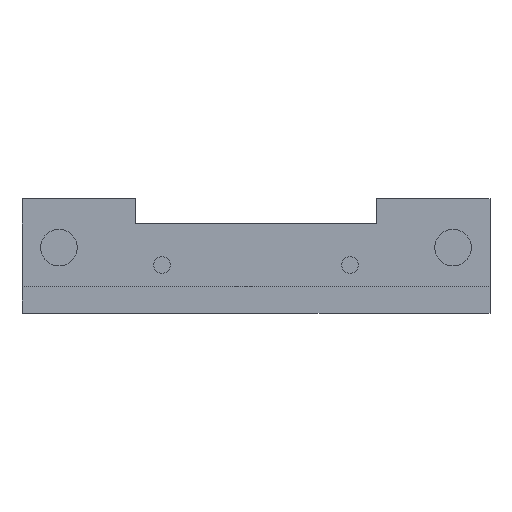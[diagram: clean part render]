
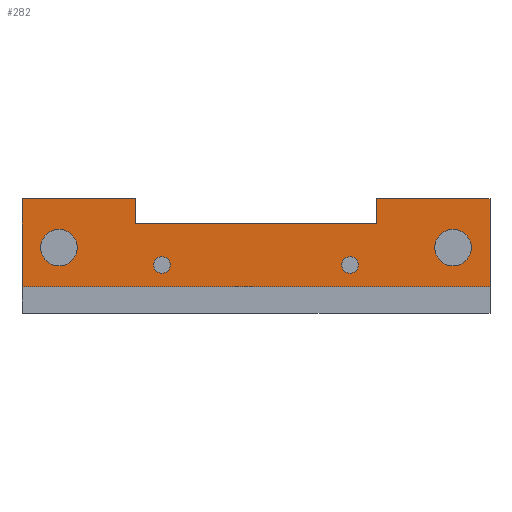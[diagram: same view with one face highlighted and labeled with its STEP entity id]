
A CAD part, top view. The second image highlights one B-rep face of the part: STEP entity #282.
In plain terms, the highlighted planar face has unit normal (0, 0, 1).
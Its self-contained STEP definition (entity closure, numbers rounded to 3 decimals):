
#185=FACE_BOUND('',#336,.T.);
#186=FACE_BOUND('',#337,.T.);
#187=FACE_BOUND('',#338,.T.);
#188=FACE_BOUND('',#339,.T.);
#189=FACE_BOUND('',#340,.T.);
#209=LINE('',#700,#241);
#210=LINE('',#705,#242);
#212=LINE('',#709,#244);
#214=LINE('',#716,#246);
#216=LINE('',#720,#248);
#218=LINE('',#724,#250);
#220=LINE('',#728,#252);
#221=LINE('',#733,#253);
#241=VECTOR('',#578,1.);
#242=VECTOR('',#581,1.);
#244=VECTOR('',#585,1.);
#246=VECTOR('',#587,1.);
#248=VECTOR('',#591,1.);
#250=VECTOR('',#595,1.);
#252=VECTOR('',#599,1.);
#253=VECTOR('',#600,1.);
#282=ADVANCED_FACE('',(#185,#186,#187,#188,#189),#297,.F.);
#297=PLANE('',#544);
#336=EDGE_LOOP('',(#423,#424,#425,#426,#427,#428,#429,#430));
#337=EDGE_LOOP('',(#431));
#338=EDGE_LOOP('',(#432));
#339=EDGE_LOOP('',(#433));
#340=EDGE_LOOP('',(#434));
#423=ORIENTED_EDGE('',*,*,#499,.F.);
#424=ORIENTED_EDGE('',*,*,#501,.F.);
#425=ORIENTED_EDGE('',*,*,#503,.F.);
#426=ORIENTED_EDGE('',*,*,#505,.F.);
#427=ORIENTED_EDGE('',*,*,#507,.F.);
#428=ORIENTED_EDGE('',*,*,#509,.T.);
#429=ORIENTED_EDGE('',*,*,#511,.T.);
#430=ORIENTED_EDGE('',*,*,#512,.F.);
#431=ORIENTED_EDGE('',*,*,#513,.F.);
#432=ORIENTED_EDGE('',*,*,#514,.F.);
#433=ORIENTED_EDGE('',*,*,#515,.T.);
#434=ORIENTED_EDGE('',*,*,#516,.T.);
#458=VERTEX_POINT('',#697);
#459=VERTEX_POINT('',#699);
#460=VERTEX_POINT('',#704);
#461=VERTEX_POINT('',#708);
#462=VERTEX_POINT('',#715);
#463=VERTEX_POINT('',#719);
#464=VERTEX_POINT('',#723);
#465=VERTEX_POINT('',#727);
#466=VERTEX_POINT('',#736);
#467=VERTEX_POINT('',#739);
#468=VERTEX_POINT('',#742);
#469=VERTEX_POINT('',#745);
#499=EDGE_CURVE('',#459,#458,#209,.T.);
#501=EDGE_CURVE('',#460,#459,#210,.T.);
#503=EDGE_CURVE('',#461,#460,#212,.T.);
#505=EDGE_CURVE('',#462,#461,#214,.T.);
#507=EDGE_CURVE('',#463,#462,#216,.T.);
#509=EDGE_CURVE('',#463,#464,#218,.T.);
#511=EDGE_CURVE('',#464,#465,#220,.T.);
#512=EDGE_CURVE('',#458,#465,#221,.T.);
#513=EDGE_CURVE('',#466,#466,#519,.T.);
#514=EDGE_CURVE('',#467,#467,#520,.T.);
#515=EDGE_CURVE('',#468,#468,#521,.T.);
#516=EDGE_CURVE('',#469,#469,#522,.T.);
#519=CIRCLE('',#536,5.5);
#520=CIRCLE('',#538,5.5);
#521=CIRCLE('',#540,2.5);
#522=CIRCLE('',#542,2.5);
#536=AXIS2_PLACEMENT_3D('',#735,#603,#604);
#538=AXIS2_PLACEMENT_3D('',#738,#607,#608);
#540=AXIS2_PLACEMENT_3D('',#741,#611,#612);
#542=AXIS2_PLACEMENT_3D('',#744,#615,#616);
#544=AXIS2_PLACEMENT_3D('',#747,#619,#620);
#578=DIRECTION('',(1.,0.,0.));
#581=DIRECTION('',(0.,1.,0.));
#585=DIRECTION('',(-1.,0.,0.));
#587=DIRECTION('',(0.,-1.,0.));
#591=DIRECTION('',(1.,0.,0.));
#595=DIRECTION('',(0.,-1.,0.));
#599=DIRECTION('',(-1.,0.,0.));
#600=DIRECTION('',(0.,-1.,0.));
#603=DIRECTION('',(0.,0.,1.));
#604=DIRECTION('',(-1.,0.,0.));
#607=DIRECTION('',(0.,0.,1.));
#608=DIRECTION('',(-1.,0.,0.));
#611=DIRECTION('',(0.,0.,-1.));
#612=DIRECTION('',(1.,0.,0.));
#615=DIRECTION('',(0.,0.,-1.));
#616=DIRECTION('',(1.,0.,0.));
#619=DIRECTION('',(0.,0.,-1.));
#620=DIRECTION('',(-1.,0.,0.));
#697=CARTESIAN_POINT('',(60.693,73.15,38.173));
#699=CARTESIAN_POINT('',(26.553,73.15,38.173));
#700=CARTESIAN_POINT('',(26.553,73.15,38.173));
#704=CARTESIAN_POINT('',(26.553,46.65,38.173));
#705=CARTESIAN_POINT('',(26.553,46.65,38.173));
#708=CARTESIAN_POINT('',(167.553,46.65,38.173));
#709=CARTESIAN_POINT('',(167.553,46.65,38.173));
#715=CARTESIAN_POINT('',(167.553,73.15,38.173));
#716=CARTESIAN_POINT('',(167.553,73.15,38.173));
#719=CARTESIAN_POINT('',(133.413,73.15,38.173));
#720=CARTESIAN_POINT('',(133.413,73.15,38.173));
#723=CARTESIAN_POINT('',(133.413,65.8,38.173));
#724=CARTESIAN_POINT('',(133.413,73.15,38.173));
#727=CARTESIAN_POINT('',(60.693,65.8,38.173));
#728=CARTESIAN_POINT('',(133.413,65.8,38.173));
#733=CARTESIAN_POINT('',(60.693,73.15,38.173));
#735=CARTESIAN_POINT('',(37.693,58.4,38.172));
#736=CARTESIAN_POINT('',(32.193,58.4,38.172));
#738=CARTESIAN_POINT('',(156.413,58.4,38.172));
#739=CARTESIAN_POINT('',(150.913,58.4,38.172));
#741=CARTESIAN_POINT('',(68.693,53.2,38.173));
#742=CARTESIAN_POINT('',(71.193,53.2,38.173));
#744=CARTESIAN_POINT('',(125.413,53.2,38.173));
#745=CARTESIAN_POINT('',(127.913,53.2,38.173));
#747=CARTESIAN_POINT('',(167.553,46.65,38.173));
